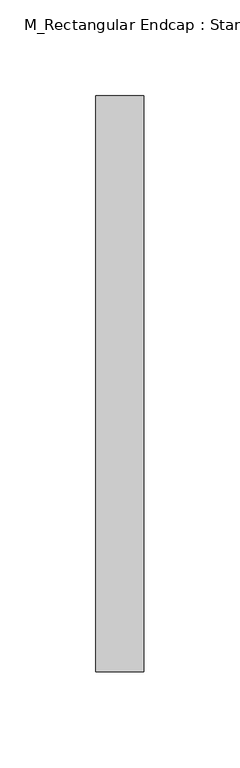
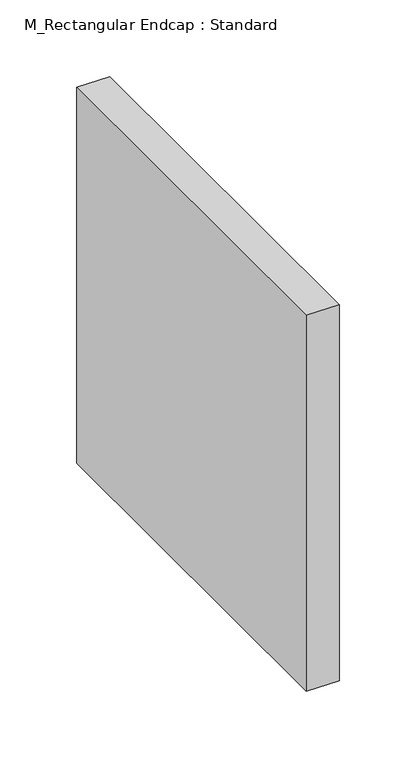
"""IFC4 building model written with IfcOpenShell, lengths in millimetres: duct fitting geometry, M_Rectangular Endcap : Standard."""

from ifc_helpers import new_model, si_unit, frame, origin, place, context, project, spatial, polyline, outline, extrude, source, transform, mapped, element, save


def m_rectangular_endcap_standard_7b60dd9d(model_context):
    return source(origin(), model_context, "Body", "SweptSolid", [
        extrude(outline(polyline([(0.0, -150.0), (0.0, 150.0), (25.0, 150.0), (25.0, -150.0), (0.0, -150.0)])), frame((0.0, 0.0, -150.0), z_axis=(0.0, 0.0, 1.0), x_axis=(1.0, 0.0, 0.0)), (0.0, 0.0, 1.0), 300.0),
        extrude(outline(polyline([(0.0, -150.0), (0.0, 150.0), (25.0, 150.0), (25.0, -150.0), (0.0, -150.0)])), frame((0.0, 0.0, -150.0), z_axis=(0.0, 0.0, 1.0), x_axis=(1.0, 0.0, 0.0)), (0.0, 0.0, 1.0), 300.0),
        extrude(outline(polyline([(0.0, -150.0), (0.0, 150.0), (25.0, 150.0), (25.0, -150.0), (0.0, -150.0)])), frame((0.0, 0.0, -150.0), z_axis=(0.0, 0.0, 1.0), x_axis=(1.0, 0.0, 0.0)), (0.0, 0.0, 1.0), 300.0),
    ])


if __name__ == "__main__":
    model = new_model("IFC4")
    model_context = context("Model", 3, world=origin())
    ifc_project = project(units=[si_unit("LENGTHUNIT", "METRE", prefix="MILLI")], contexts=[model_context])
    site = spatial("IfcSite", under=ifc_project)
    building = spatial("IfcBuilding", under=site)
    placement = place(None, origin())
    m_rectangular_endcap_standard_shape = m_rectangular_endcap_standard_7b60dd9d(model_context)
    element("IfcDuctFitting", 1, ObjectType="M_Rectangular Endcap : Standard", at=placement, inside=building, context=model_context, shape_type="MappedRepresentation", body=[
        mapped(m_rectangular_endcap_standard_shape, transform((0.0, 0.0, 0.0), x_axis=(1.0, 0.0, 0.0), y_axis=(0.0, 1.0, 0.0), z_axis=(0.0, 0.0, 1.0))),
    ])
    save(model, "model.ifc")
